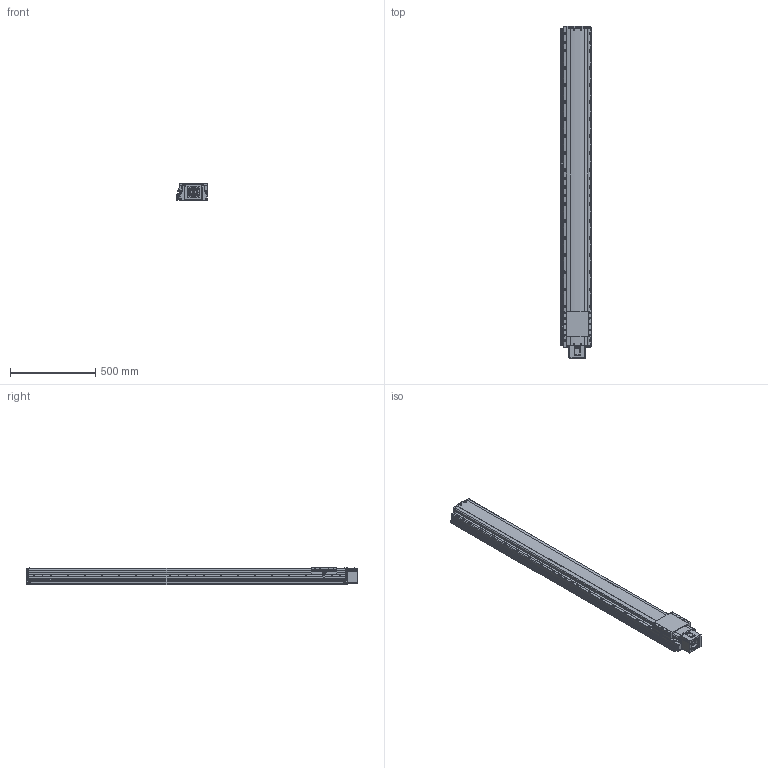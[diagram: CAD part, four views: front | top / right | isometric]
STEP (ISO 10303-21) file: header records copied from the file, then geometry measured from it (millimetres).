
FILE_DESCRIPTION(('STEP AP214'),'1');
FILE_NAME('Z:/Web/3D/PSA165/STP/PSA165-1600 (3D)/PSA165ㅁㅁ-1600S+3SL.stp','2014-06-24T11:04:01',(' '),(' '),'Spatial InterOp 3D',' ',' ');
FILE_SCHEMA(('automotive_design'));
Length unit declared in the file: millimetre
Products named in the file (85): 스크루 : Round - M4.0 x 12.0; RRCV-PA160; BASE; 스크루 : Round - M4.0 x 10.0; RN15; Screw 20; SLIDE; FRCV; 스크루 : Socket - M6.0 x 25.0; MTHZ-SAN150-80A; SSFX-SAN65; CPLCV-SAN65; 스크루 : Round - M3.0 x 6.0; SDWA47C(2); SDWA47C(3-1); SDWA47C(3); SDWA47C(1); SDWA47C(4); SDWA47C(5); M3.0 x 6.0; SRL-16x17-360L; SGD-SAN150; EE-SX674; SBK-SX674-352; BHCS M4.0 x 10.0
Bounding box: 181 x 1949.8 x 104 mm (x, y, z)
Volume: 26321755.6 mm3; surface area: 1814193.6 mm2
Topology: 85 solids, 85 shells, 3729 faces, 9939 edges, 6397 vertices
Faces by surface type: plane 1787, cylinder 1388, cone 425, sphere 70, bspline 35, torus 24
Entity records: 152605 total; most frequent: CARTESIAN_POINT 26380, DIRECTION 20603, ORIENTED_EDGE 19486, EDGE_CURVE 9743, AXIS2_PLACEMENT_3D 7430, VERTEX_POINT 6397, LINE 5743, VECTOR 5743
